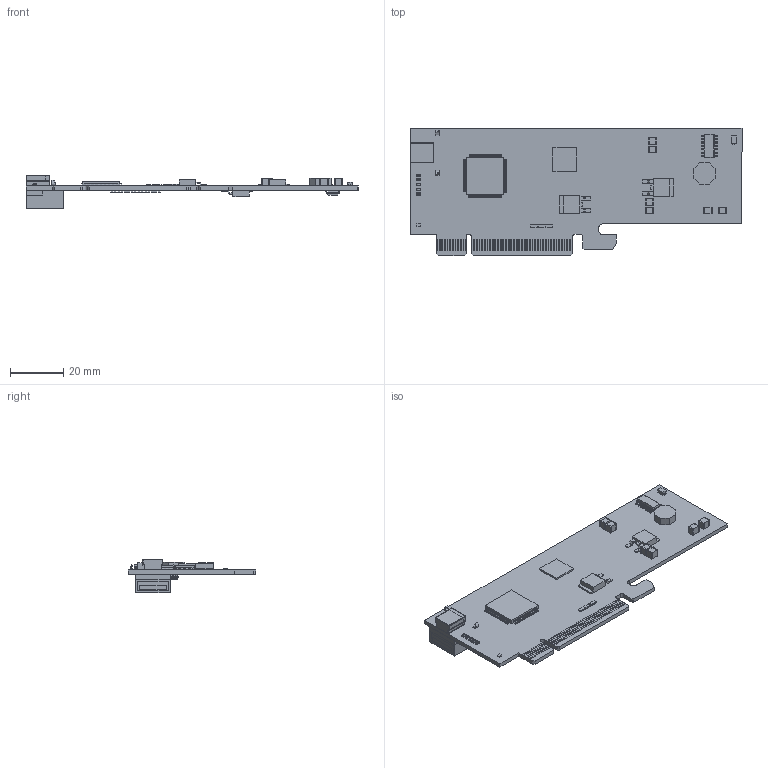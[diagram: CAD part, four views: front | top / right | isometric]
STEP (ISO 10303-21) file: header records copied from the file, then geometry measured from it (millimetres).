
FILE_DESCRIPTION (( 'STEP AP214' ), '1' );
FILE_NAME ('S62-MTM-IO-SERIAL.STEP', '2015-10-01T20:37:07', ( '' ), ( '' ), 'SwSTEP 2.0', 'SolidWorks 2016', '' );
FILE_SCHEMA (( 'AUTOMOTIVE_DESIGN' ));
Length unit declared in the file: millimetre
Products named in the file (16): TO-252; PPCBS00058; DFN2510A-10; SOIC08; LED_0603; S62-MTM-IO-SERIAL; SOD123; SOIC14; DFN1410-6; PCONN00057; Inductor_8mmX8mmX3mm; PBULD00045_Revision_D; Capacitor_1210; PCONN00078; QFN64; LQFP100
Assembly tree (44 placements, depth 3):
  S62-MTM-IO-SERIAL
    PBULD00045_Revision_D
      PPCBS00058
      PCONN00078
      PCONN00057
      TO-252  x3
      LQFP100
      LED_0603  x20
      Capacitor_1210  x6
      Inductor_8mmX8mmX3mm
      QFN64
      DFN2510A-10  x3
      DFN1410-6
      SOD123
      SOIC14
      SOIC08  x2
Bounding box: 125 x 48 x 12.66 mm (x, y, z)
Volume: 12051.9 mm3; surface area: 17106.9 mm2
Topology: 219 solids, 219 shells, 4344 faces, 10267 edges, 6374 vertices
Faces by surface type: plane 2582, cylinder 1047, bspline 545, sphere 170
Entity records: 133404 total; most frequent: CARTESIAN_POINT 34491, ORIENTED_EDGE 15506, DIRECTION 14443, EDGE_CURVE 7753, VECTOR 5595, LINE 5595, VERTEX_POINT 4890, AXIS2_PLACEMENT_3D 4424
